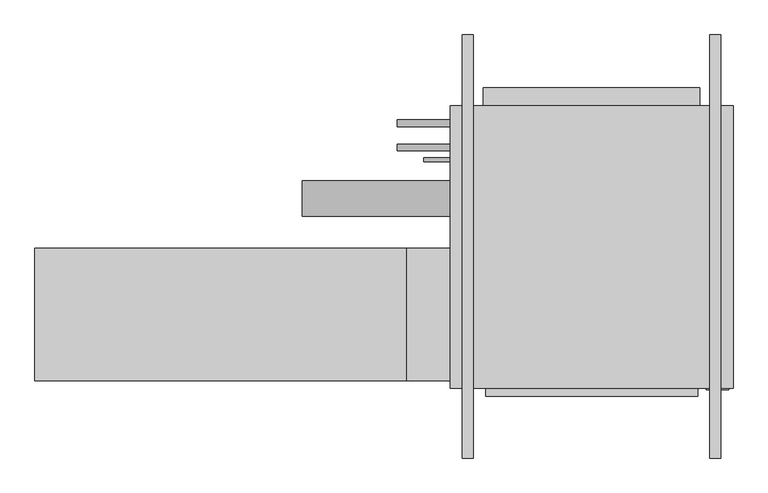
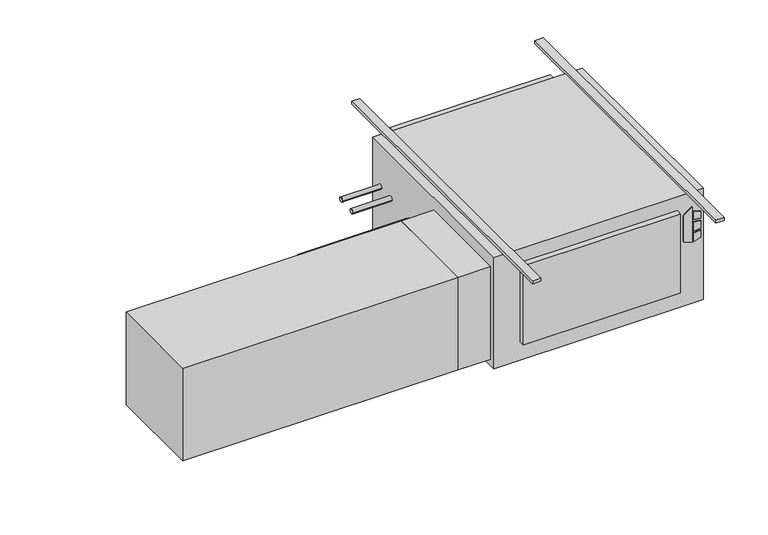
"""IFC4 building model written with IfcOpenShell, lengths in millimetres: proxy geometry."""

from ifc_helpers import new_model, si_unit, point, frame, frame_2d, origin, origin_with_axes, place, context, project, spatial, polyline, circle_curve, trimmed, segment, composite_curve, outline, extrude, source, transform, mapped, element, save


def mechanical_equipment_660552b3(model_context):
    return source(origin(), model_context, "Body", "SweptSolid", [
        extrude(outline(polyline([(-193.2519297, 481.0868862), (-203.2, 513.2602728), (-61.0290756, 513.2602728), (-84.0510817, 481.0868862), (-193.2519297, 481.0868862)])), frame((0.0, -647.7, 0.0), z_axis=(0.0, 1.0, 0.0), x_axis=(0.0, 0.0, 1.0)), (0.0, 0.0, 1.0), 3.175),
        extrude(outline(polyline([(-114.2526443, 520.0186058), (-117.4550368, 546.1), (-88.2261958, 546.1), (-80.1617807, 520.0186058), (-114.2526443, 520.0186058)])), frame((0.0, -647.7, 0.0), z_axis=(0.0, 1.0, 0.0), x_axis=(0.0, 0.0, 1.0)), (0.0, 0.0, 1.0), 3.175),
        extrude(outline(polyline([(-166.1161712, 546.1), (-169.7816721, 520.0186058), (-203.2, 520.0186058), (-194.5657628, 546.1), (-166.1161712, 546.1)])), frame((0.0, -647.7, 0.0), z_axis=(0.0, 1.0, 0.0), x_axis=(0.0, 0.0, 1.0)), (0.0, 0.0, 1.0), 3.175),
        extrude(outline(polyline([(-126.8010097, 546.1), (-124.5191834, 520.0186058), (-160.4567319, 520.0186058), (-157.7154669, 546.1), (-126.8010097, 546.1)])), frame((0.0, -647.7, 0.0), z_axis=(0.0, 1.0, 0.0), x_axis=(0.0, 0.0, 1.0)), (0.0, 0.0, 1.0), 3.175),
        extrude(outline(polyline([(457.2, -666.877), (-152.4, -666.877), (-152.4, -644.525), (457.2, -644.525), (457.2, -666.877)])), frame((0.0, 0.0, -381.0), z_axis=(0.0, 0.0, 1.0), x_axis=(1.0, 0.0, 0.0)), (0.0, 0.0, 1.0), 323.85),
        extrude(outline(polyline([(-1447.8, -622.3), (-1447.8, -241.3), (-381.0, -241.3), (-381.0, -622.3), (-1447.8, -622.3)])), frame((0.0, 0.0, -431.8), z_axis=(0.0, 0.0, 1.0), x_axis=(1.0, 0.0, 0.0)), (0.0, 0.0, 1.0), 381.0),
        extrude(outline(polyline([(-254.0, -241.3), (-254.0, -622.3), (-381.0, -622.3), (-381.0, -241.3), (-254.0, -241.3)])), frame((0.0, 0.0, -431.8), z_axis=(0.0, 0.0, 1.0), x_axis=(1.0, 0.0, 0.0)), (0.0, 0.0, 1.0), 381.0),
        extrude(outline(composite_curve([segment(trimmed(circle_curve(frame_2d((-98.4896516, -228.6360165)), 50.8), [point((-149.2896516, -228.6360165))], [point((-47.6896516, -228.6360165))], False, "CARTESIAN"), True, "CONTINUOUS"), segment(trimmed(circle_curve(frame_2d((-98.4896516, -228.6360165)), 50.8), [point((-47.6896516, -228.6360165))], [point((-149.2896516, -228.6360165))], False, "CARTESIAN"), True, "CONTINUOUS")], self_intersect=False)), frame((-679.45, 0.0, 0.0), z_axis=(1.0, 0.0, 0.0), x_axis=(0.0, 1.0, 0.0)), (0.0, 0.0, 1.0), 425.45),
        extrude(outline(composite_curve([segment(trimmed(circle_curve(frame_2d((47.625, -177.8)), 9.525), [point((38.1, -177.8))], [point((57.15, -177.8))], False, "CARTESIAN"), True, "CONTINUOUS"), segment(trimmed(circle_curve(frame_2d((47.625, -177.8)), 9.525), [point((57.15, -177.8))], [point((38.1, -177.8))], False, "CARTESIAN"), True, "CONTINUOUS")], self_intersect=False)), frame((-406.4, 0.0, 0.0), z_axis=(1.0, 0.0, 0.0), x_axis=(0.0, 1.0, 0.0)), (0.0, 0.0, 1.0), 152.4),
        extrude(outline(composite_curve([segment(trimmed(circle_curve(frame_2d((117.475, -171.45)), 9.525), [point((107.95, -171.45))], [point((127.0, -171.45))], False, "CARTESIAN"), True, "CONTINUOUS"), segment(trimmed(circle_curve(frame_2d((117.475, -171.45)), 9.525), [point((127.0, -171.45))], [point((107.95, -171.45))], False, "CARTESIAN"), True, "CONTINUOUS")], self_intersect=False)), frame((-406.4, 0.0, 0.0), z_axis=(1.0, 0.0, 0.0), x_axis=(0.0, 1.0, 0.0)), (0.0, 0.0, 1.0), 152.4),
        extrude(outline(composite_curve([segment(trimmed(circle_curve(frame_2d((12.7, -409.575)), 6.35), [point((6.35, -409.575))], [point((19.05, -409.575))], False, "CARTESIAN"), True, "CONTINUOUS"), segment(trimmed(circle_curve(frame_2d((12.7, -409.575)), 6.35), [point((19.05, -409.575))], [point((6.35, -409.575))], False, "CARTESIAN"), True, "CONTINUOUS")], self_intersect=False)), frame((-330.2, 0.0, 0.0), z_axis=(1.0, 0.0, 0.0), x_axis=(0.0, 1.0, 0.0)), (0.0, 0.0, 1.0), 76.2),
        extrude(outline(polyline([(558.8, 168.275), (558.8, -644.525), (-254.0, -644.525), (-254.0, 168.275), (558.8, 168.275)])), frame((0.0, 0.0, -457.2), z_axis=(0.0, 0.0, 1.0), x_axis=(1.0, 0.0, 0.0)), (0.0, 0.0, 1.0), 457.2),
        extrude(outline(polyline([(-158.75, 219.075), (463.55, 219.075), (463.55, 168.275), (-158.75, 168.275), (-158.75, 219.075)])), frame((0.0, 0.0, -381.0), z_axis=(0.0, 0.0, 1.0), x_axis=(1.0, 0.0, 0.0)), (0.0, 0.0, 1.0), 355.6),
        extrude(outline(polyline([(-187.325, 371.475), (-187.325, -844.677), (-219.075, -844.677), (-219.075, 371.475), (-187.325, 371.475)])), origin_with_axes(), (0.0, 0.0, 1.0), 12.7),
        extrude(outline(polyline([(523.875, 371.475), (523.875, -844.677), (492.125, -844.677), (492.125, 371.475), (523.875, 371.475)])), origin_with_axes(), (0.0, 0.0, 1.0), 12.7),
    ])


if __name__ == "__main__":
    model = new_model("IFC4")
    model_context = context("Model", 3, world=origin())
    ifc_project = project(units=[si_unit("LENGTHUNIT", "METRE", prefix="MILLI")], contexts=[model_context])
    site = spatial("IfcSite", under=ifc_project)
    building = spatial("IfcBuilding", under=site)
    placement = place(None, origin())
    mechanical_equipment_shape = mechanical_equipment_660552b3(model_context)
    element("IfcBuildingElementProxy", 1, Name="High_Capacity_Horizontal_Cabinet_Fan_Coil_Unit_-_HTY_-_IEC_-_2-Pipe_LH Side_2022 : Size 10 - 115v/60Hz/1Ph - 4/0 Coil - 4\" AirIn", ObjectType="High_Capacity_Horizontal_Cabinet_Fan_Coil_Unit_-_HTY_-_IEC_-_2-Pipe_LH Side_2022 : Size 10 - 115v/60Hz/1Ph - 4/0 Coil - 4\" AirIn", at=placement, inside=building, context=model_context, shape_type="MappedRepresentation", body=[
        mapped(mechanical_equipment_shape, transform((0.0, 0.0, 0.0), x_axis=(1.0, 0.0, 0.0), y_axis=(0.0, 1.0, 0.0), z_axis=(0.0, 0.0, 1.0))),
    ])
    save(model, "model.ifc")
